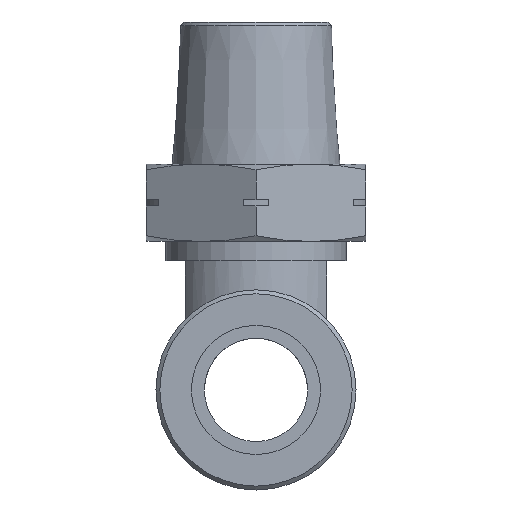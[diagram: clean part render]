
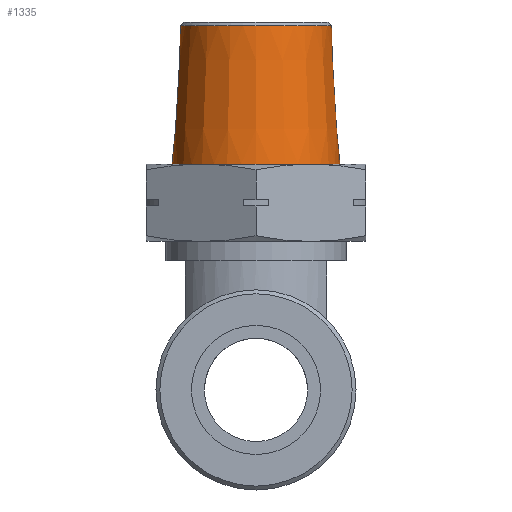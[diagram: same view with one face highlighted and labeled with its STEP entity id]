
A CAD part, front view. The second image highlights one B-rep face of the part: STEP entity #1335.
In plain terms, the highlighted conical face has half-angle 3.5 degrees and reference radius 6.164 mm.
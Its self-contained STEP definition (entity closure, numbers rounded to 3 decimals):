
#32=CONICAL_SURFACE('',#1462,6.164,0.061);
#126=FACE_OUTER_BOUND('',#212,.T.);
#212=EDGE_LOOP('',(#962,#963,#964,#965,#966));
#305=CIRCLE('',#1460,5.846);
#306=CIRCLE('',#1461,5.846);
#307=CIRCLE('',#1463,6.5);
#412=LINE('',#2168,#504);
#504=VECTOR('',#1716,6.164);
#600=VERTEX_POINT('',#2161);
#601=VERTEX_POINT('',#2163);
#602=VERTEX_POINT('',#2167);
#741=EDGE_CURVE('',#600,#601,#305,.T.);
#742=EDGE_CURVE('',#601,#600,#306,.T.);
#743=EDGE_CURVE('',#601,#602,#412,.T.);
#744=EDGE_CURVE('',#602,#602,#307,.T.);
#962=ORIENTED_EDGE('',*,*,#741,.F.);
#963=ORIENTED_EDGE('',*,*,#742,.F.);
#964=ORIENTED_EDGE('',*,*,#743,.T.);
#965=ORIENTED_EDGE('',*,*,#744,.F.);
#966=ORIENTED_EDGE('',*,*,#743,.F.);
#1335=ADVANCED_FACE('',(#126),#32,.T.);
#1460=AXIS2_PLACEMENT_3D('',#2164,#1710,#1711);
#1461=AXIS2_PLACEMENT_3D('',#2165,#1712,#1713);
#1462=AXIS2_PLACEMENT_3D('',#2166,#1714,#1715);
#1463=AXIS2_PLACEMENT_3D('',#2169,#1717,#1718);
#1710=DIRECTION('center_axis',(0.,0.,1.));
#1711=DIRECTION('ref_axis',(0.,-1.,0.));
#1712=DIRECTION('center_axis',(0.,0.,1.));
#1713=DIRECTION('ref_axis',(0.,-1.,0.));
#1714=DIRECTION('center_axis',(0.,0.,-1.));
#1715=DIRECTION('ref_axis',(0.,1.,0.));
#1716=DIRECTION('',(0.,-0.061,-0.998));
#1717=DIRECTION('center_axis',(0.,0.,-1.));
#1718=DIRECTION('ref_axis',(0.,1.,0.));
#2161=CARTESIAN_POINT('',(0.,5.846,28.201));
#2163=CARTESIAN_POINT('',(0.,-5.846,28.201));
#2164=CARTESIAN_POINT('Origin',(0.,0.,
28.201));
#2165=CARTESIAN_POINT('Origin',(0.,0.,
28.201));
#2166=CARTESIAN_POINT('Origin',(0.,0.,23.));
#2167=CARTESIAN_POINT('',(0.,-6.5,17.5));
#2168=CARTESIAN_POINT('',(0.,-6.164,23.));
#2169=CARTESIAN_POINT('Origin',(0.,0.,17.5));
